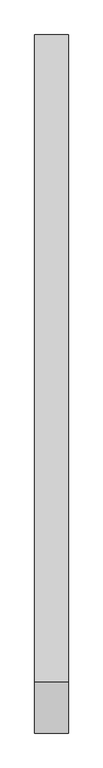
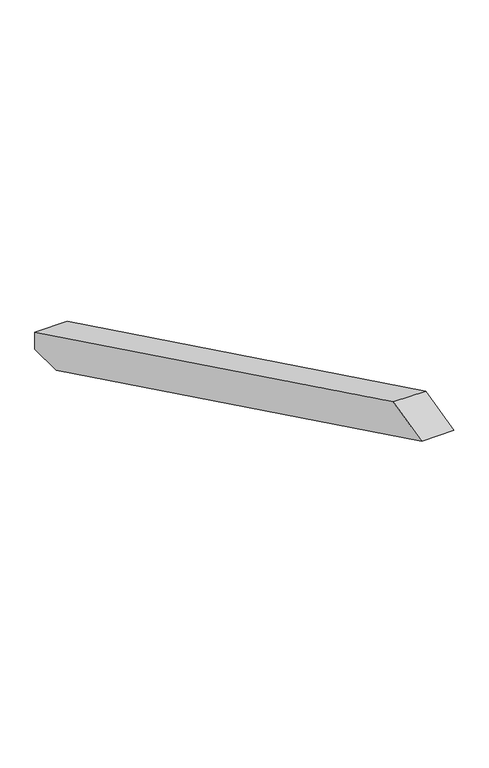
"""IFC4 building model written with IfcOpenShell, lengths in millimetres: proxy geometry, Modelos genéricos 77 : Modelos genéricos 16."""

from ifc_helpers import new_model, si_unit, frame, origin, place, context, project, spatial, polyline, outline, extrude, source, transform, mapped, element, save


def generic_models_f7be567b(model_context):
    return source(origin(), model_context, "Body", "SweptSolid", [
        extrude(outline(polyline([(723.3927505, 3756.8218964), (1878.6238165, 3193.3780582), (1878.6238165, 3160.0), (1810.1886555, 3160.0), (632.8220197, 3734.240077), (723.3927505, 3756.8218964)])), frame((-1726.5527533, 0.0, 0.0), z_axis=(1.0, 0.0, 0.0), x_axis=(0.0, 1.0, 0.0)), (0.0, 0.0, 1.0), 60.0),
    ])


if __name__ == "__main__":
    model = new_model("IFC4")
    model_context = context("Model", 3, world=origin())
    ifc_project = project(units=[si_unit("LENGTHUNIT", "METRE", prefix="MILLI")], contexts=[model_context])
    site = spatial("IfcSite", under=ifc_project)
    building = spatial("IfcBuilding", under=site)
    placement = place(None, origin())
    generic_models_shape = generic_models_f7be567b(model_context)
    element("IfcBuildingElementProxy", 1, Name="Modelos genéricos 77 : Modelos genéricos 16", ObjectType="Modelos genéricos 77 : Modelos genéricos 16", at=placement, inside=building, context=model_context, shape_type="MappedRepresentation", body=[
        mapped(generic_models_shape, transform((0.0, 0.0, 0.0), x_axis=(1.0, 0.0, 0.0), y_axis=(0.0, 1.0, 0.0), z_axis=(0.0, 0.0, 1.0))),
    ])
    save(model, "model.ifc")
